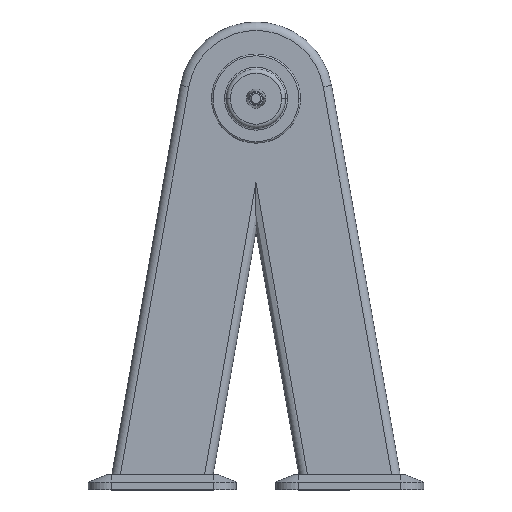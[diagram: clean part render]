
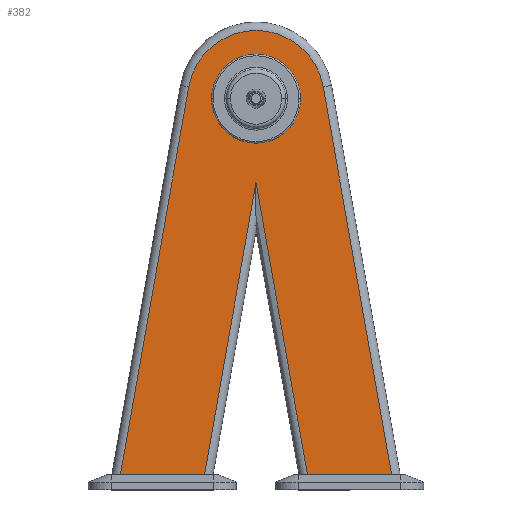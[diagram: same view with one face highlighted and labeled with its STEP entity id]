
A CAD part, top view. The second image highlights one B-rep face of the part: STEP entity #382.
In plain terms, the highlighted planar face has unit normal (0, 0, 1).
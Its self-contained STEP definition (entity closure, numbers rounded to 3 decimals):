
#114 = CARTESIAN_POINT ( 'NONE',  ( -176.773, 20., 63. ) ) ;
#115 = AXIS2_PLACEMENT_3D ( 'NONE', #2460, #2461, #2435 ) ;
#138 = VERTEX_POINT ( 'NONE', #1369 ) ;
#169 = LINE ( 'NONE', #737, #1785 ) ;
#283 = CARTESIAN_POINT ( 'NONE',  ( 87.648, 525.455, 63. ) ) ;
#293 = ORIENTED_EDGE ( 'NONE', *, *, #2445, .T. ) ;
#338 = CIRCLE ( 'NONE', #1274, 58. ) ;
#375 = ORIENTED_EDGE ( 'NONE', *, *, #1619, .T. ) ;
#376 = DIRECTION ( 'NONE',  ( 1., 0., 0. ) ) ;
#378 = DIRECTION ( 'NONE',  ( 0., 0., 1. ) ) ;
#381 = CARTESIAN_POINT ( 'NONE',  ( 0., 510., 63. ) ) ;
#382 = ADVANCED_FACE ( 'NONE', ( #2462, #1357 ), #2449, .T. ) ;
#425 = DIRECTION ( 'NONE',  ( 0.174, -0.985, 0. ) ) ;
#437 = CARTESIAN_POINT ( 'NONE',  ( 73.219, -14.664, 63. ) ) ;
#511 = VERTEX_POINT ( 'NONE', #2237 ) ;
#534 = VERTEX_POINT ( 'NONE', #2213 ) ;
#583 = CARTESIAN_POINT ( 'NONE',  ( 0., 20., 63. ) ) ;
#590 = DIRECTION ( 'NONE',  ( -1., 0., 0. ) ) ;
#594 = LINE ( 'NONE', #583, #1655 ) ;
#722 = DIRECTION ( 'NONE',  ( -0.174, 0.985, 0. ) ) ;
#737 = CARTESIAN_POINT ( 'NONE',  ( 87.648, 525.455, 63. ) ) ;
#814 = VECTOR ( 'NONE', #2783, 1000. ) ;
#845 = DIRECTION ( 'NONE',  ( 1., 0., 0. ) ) ;
#847 = DIRECTION ( 'NONE',  ( 0., 0., 1. ) ) ;
#850 = CARTESIAN_POINT ( 'NONE',  ( 0., 510., 63. ) ) ;
#874 = ORIENTED_EDGE ( 'NONE', *, *, #2172, .T. ) ;
#896 = VERTEX_POINT ( 'NONE', #1826 ) ;
#902 = VERTEX_POINT ( 'NONE', #1809 ) ;
#1005 = CARTESIAN_POINT ( 'NONE',  ( -10.833, 339.147, 63. ) ) ;
#1007 = CARTESIAN_POINT ( 'NONE',  ( -58., 510., 63. ) ) ;
#1031 = DIRECTION ( 'NONE',  ( -0.174, -0.985, 0. ) ) ;
#1050 = AXIS2_PLACEMENT_3D ( 'NONE', #850, #847, #845 ) ;
#1051 = CARTESIAN_POINT ( 'NONE',  ( -181.694, -7.91, 63. ) ) ;
#1147 = AXIS2_PLACEMENT_3D ( 'NONE', #381, #378, #376 ) ;
#1171 = CARTESIAN_POINT ( 'NONE',  ( 0., 510., 63. ) ) ;
#1274 = AXIS2_PLACEMENT_3D ( 'NONE', #1171, #2651, #1385 ) ;
#1293 = EDGE_LOOP ( 'NONE', ( #1376, #1943 ) ) ;
#1350 = LINE ( 'NONE', #1005, #1852 ) ;
#1357 = FACE_OUTER_BOUND ( 'NONE', #2709, .T. ) ;
#1369 = CARTESIAN_POINT ( 'NONE',  ( 58., 510., 63. ) ) ;
#1376 = ORIENTED_EDGE ( 'NONE', *, *, #2738, .F. ) ;
#1385 = DIRECTION ( 'NONE',  ( 1., 0., 0. ) ) ;
#1444 = ORIENTED_EDGE ( 'NONE', *, *, #2045, .F. ) ;
#1450 = VECTOR ( 'NONE', #425, 1000. ) ;
#1553 = VECTOR ( 'NONE', #1031, 1000. ) ;
#1619 = EDGE_CURVE ( 'NONE', #896, #2331, #2112, .T. ) ;
#1627 = VERTEX_POINT ( 'NONE', #1007 ) ;
#1655 = VECTOR ( 'NONE', #590, 1000. ) ;
#1705 = CARTESIAN_POINT ( 'NONE',  ( 67.107, 20., 63. ) ) ;
#1763 = EDGE_CURVE ( 'NONE', #2712, #896, #1984, .T. ) ;
#1785 = VECTOR ( 'NONE', #722, 1000. ) ;
#1809 = CARTESIAN_POINT ( 'NONE',  ( 176.773, 20., 63. ) ) ;
#1826 = CARTESIAN_POINT ( 'NONE',  ( -87.648, 525.455, 63. ) ) ;
#1852 = VECTOR ( 'NONE', #2459, 1000. ) ;
#1905 = EDGE_CURVE ( 'NONE', #902, #2712, #169, .T. ) ;
#1943 = ORIENTED_EDGE ( 'NONE', *, *, #2208, .F. ) ;
#1947 = LINE ( 'NONE', #2582, #814 ) ;
#1984 = CIRCLE ( 'NONE', #1050, 89. ) ;
#2009 = ORIENTED_EDGE ( 'NONE', *, *, #1905, .T. ) ;
#2016 = CIRCLE ( 'NONE', #1147, 58. ) ;
#2045 = EDGE_CURVE ( 'NONE', #902, #2541, #594, .T. ) ;
#2112 = LINE ( 'NONE', #1051, #1553 ) ;
#2172 = EDGE_CURVE ( 'NONE', #511, #2541, #2637, .T. ) ;
#2208 = EDGE_CURVE ( 'NONE', #138, #1627, #2016, .T. ) ;
#2213 = CARTESIAN_POINT ( 'NONE',  ( -67.107, 20., 63. ) ) ;
#2237 = CARTESIAN_POINT ( 'NONE',  ( 0., 400.583, 63. ) ) ;
#2331 = VERTEX_POINT ( 'NONE', #114 ) ;
#2435 = DIRECTION ( 'NONE',  ( 1., 0., 0. ) ) ;
#2445 = EDGE_CURVE ( 'NONE', #534, #511, #1350, .T. ) ;
#2449 = PLANE ( 'NONE',  #115 ) ;
#2459 = DIRECTION ( 'NONE',  ( 0.174, 0.985, 0. ) ) ;
#2460 = CARTESIAN_POINT ( 'NONE',  ( 0., 510., 63. ) ) ;
#2461 = DIRECTION ( 'NONE',  ( 0., 0., 1. ) ) ;
#2462 = FACE_BOUND ( 'NONE', #1293, .T. ) ;
#2482 = ORIENTED_EDGE ( 'NONE', *, *, #2605, .F. ) ;
#2541 = VERTEX_POINT ( 'NONE', #1705 ) ;
#2553 = ORIENTED_EDGE ( 'NONE', *, *, #1763, .T. ) ;
#2582 = CARTESIAN_POINT ( 'NONE',  ( 0., 20., 63. ) ) ;
#2605 = EDGE_CURVE ( 'NONE', #534, #2331, #1947, .T. ) ;
#2637 = LINE ( 'NONE', #437, #1450 ) ;
#2651 = DIRECTION ( 'NONE',  ( 0., 0., 1. ) ) ;
#2709 = EDGE_LOOP ( 'NONE', ( #2482, #293, #874, #1444, #2009, #2553, #375 ) ) ;
#2712 = VERTEX_POINT ( 'NONE', #283 ) ;
#2738 = EDGE_CURVE ( 'NONE', #1627, #138, #338, .T. ) ;
#2783 = DIRECTION ( 'NONE',  ( -1., 0., 0. ) ) ;
